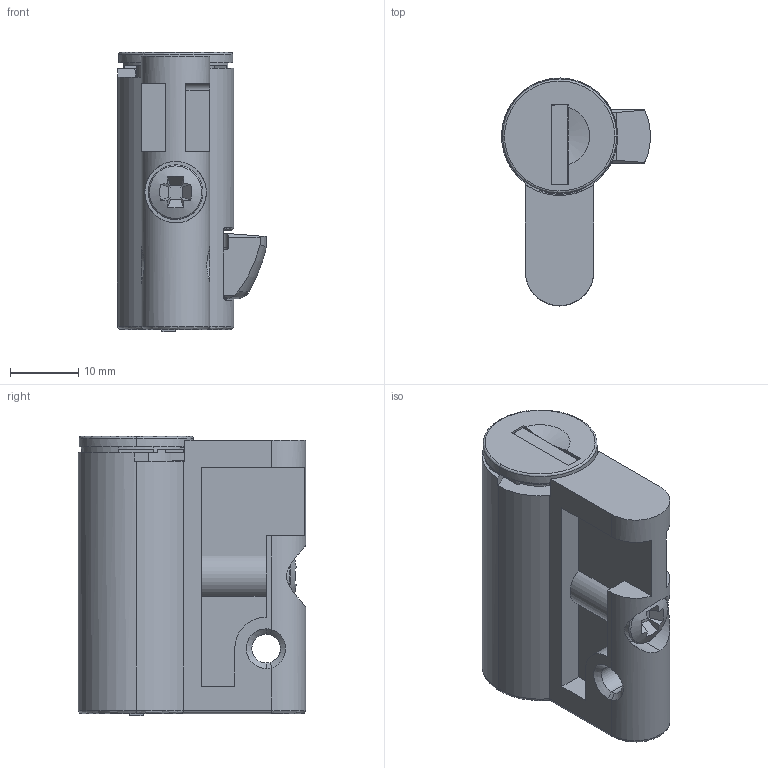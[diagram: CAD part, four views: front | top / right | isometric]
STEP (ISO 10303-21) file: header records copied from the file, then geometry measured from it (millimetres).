
FILE_DESCRIPTION (( 'STEP AP203' ), '1' );
FILE_NAME ('LSSU521_V1.STEP', '2018-10-08T06:23:45', ( '' ), ( '' ), 'SwSTEP 2.0', 'SolidWorks 2017', '' );
FILE_SCHEMA (( 'CONFIG_CONTROL_DESIGN' ));
Length unit declared in the file: millimetre
Products named in the file (9): 1108-23-1; 1109-25; 1109-21; 1108-25; 1108-27; LSSU521_V1; 1108-24; 1109-20; 1108-U49_ASM
Assembly tree (12 placements, depth 3):
  LSSU521_V1
    1109-20
    1108-U49_ASM
      1108-23-1
      1108-27
      1108-24
      1108-25  x5
    1109-21
    1109-25
Bounding box: 21.8 x 33.3 x 40.85 mm (x, y, z)
Volume: 11695.9 mm3; surface area: 11348.3 mm2
Topology: 11 solids, 11 shells, 849 faces, 2199 edges, 1368 vertices
Faces by surface type: plane 365, bspline 275, cylinder 160, cone 47, torus 2
Entity records: 64199 total; most frequent: CARTESIAN_POINT 46072, ORIENTED_EDGE 4104, DIRECTION 2640, EDGE_CURVE 2052, VERTEX_POINT 1272, LINE 940, VECTOR 940, AXIS2_PLACEMENT_3D 850
